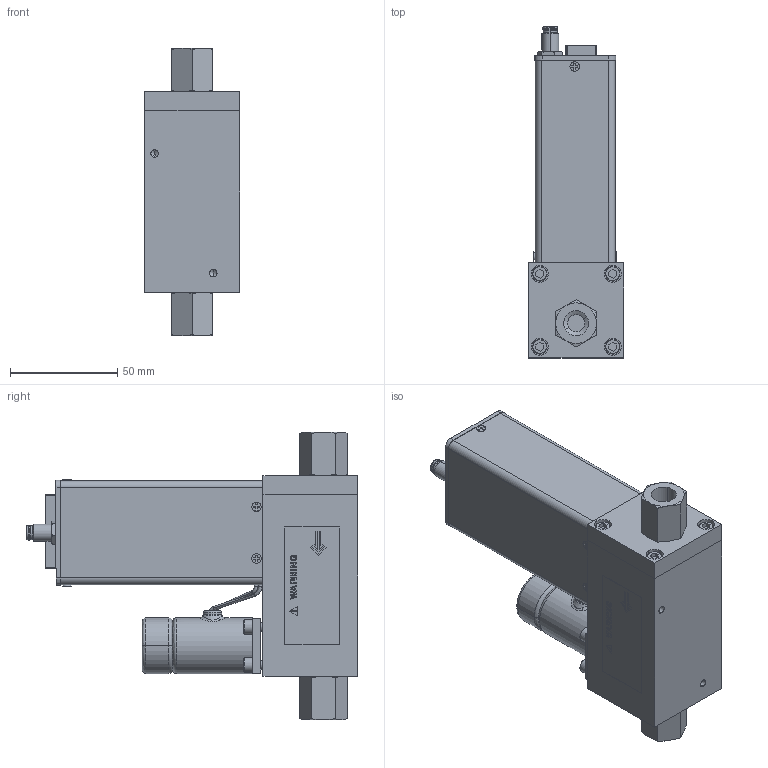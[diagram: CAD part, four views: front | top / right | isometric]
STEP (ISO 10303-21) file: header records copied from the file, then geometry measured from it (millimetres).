
FILE_DESCRIPTION (( 'STEP AP203' ), '1' );
FILE_NAME ('SLA5851-8-IT-1-A-REVB.STEP', '2024-03-21T12:10:34', ( '' ), ( '' ), 'SwSTEP 2.0', 'SolidWorks 2023', '' );
FILE_SCHEMA (( 'CONFIG_CONTROL_DESIGN' ));
Length unit declared in the file: inch
Products named in the file (1): SLA5851-8-IT-1-A-REVB
Bounding box: 44.3 x 154.44 x 133.75 mm (x, y, z)
Volume: 182060.1 mm3; surface area: 121895.4 mm2
Topology: 55 solids, 55 shells, 2367 faces, 6126 edges, 3942 vertices
Faces by surface type: plane 1448, cylinder 586, bspline 167, cone 166
Entity records: 77471 total; most frequent: CARTESIAN_POINT 19887, ORIENTED_EDGE 12164, DIRECTION 11536, EDGE_CURVE 6082, VECTOR 4320, LINE 4320, VERTEX_POINT 3942, AXIS2_PLACEMENT_3D 3608
